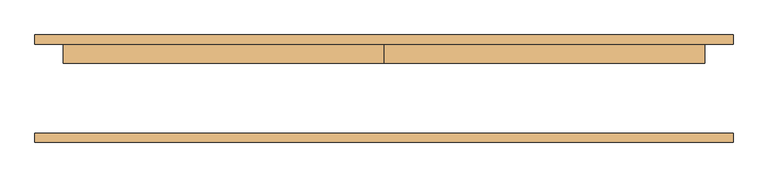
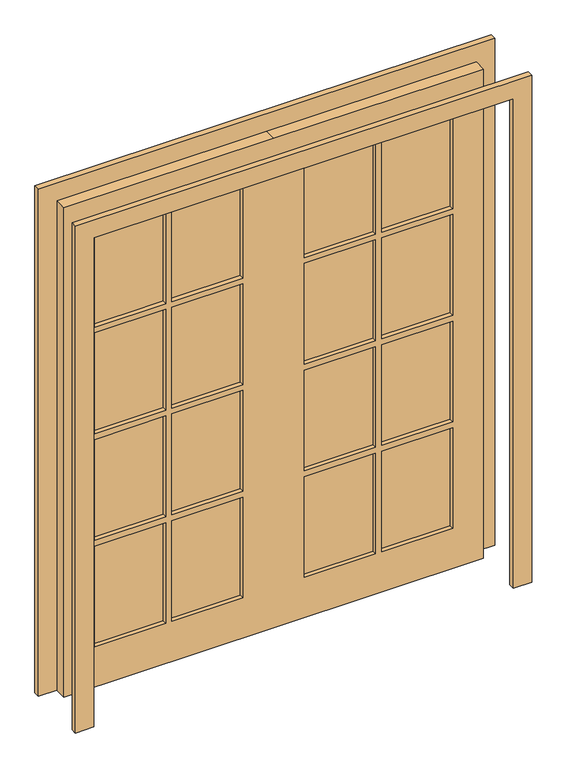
"""IFC4 building model written with IfcOpenShell, lengths in millimetres: door geometry, Двупольная-Стекло 2 : 1730 x 2134 мм."""

from ifc_helpers import new_model, si_unit, frame, origin, place, context, project, spatial, polyline, outline, extrude, source, transform, mapped, element, save


def door_87393b2f(model_context):
    return source(origin(), model_context, "Body", "SweptSolid", [
        extrude(outline(polyline([(445.0, 100.95), (738.0, 100.95), (738.0, 88.25), (445.0, 88.25), (445.0, 100.95)])), frame((0.0, 0.0, 1569.25), z_axis=(0.0, 0.0, 1.0), x_axis=(1.0, 0.0, 0.0)), (0.0, 0.0, 1.0), 439.75),
        extrude(outline(polyline([(127.0, 100.95), (420.0, 100.95), (420.0, 88.25), (127.0, 88.25), (127.0, 100.95)])), frame((0.0, 0.0, 1569.25), z_axis=(0.0, 0.0, 1.0), x_axis=(1.0, 0.0, 0.0)), (0.0, 0.0, 1.0), 439.75),
        extrude(outline(polyline([(-420.0, 100.95), (-127.0, 100.95), (-127.0, 88.25), (-420.0, 88.25), (-420.0, 100.95)])), frame((0.0, 0.0, 1569.25), z_axis=(0.0, 0.0, 1.0), x_axis=(1.0, 0.0, 0.0)), (0.0, 0.0, 1.0), 439.75),
        extrude(outline(polyline([(-738.0, 100.95), (-445.0, 100.95), (-445.0, 88.25), (-738.0, 88.25), (-738.0, 100.95)])), frame((0.0, 0.0, 1569.25), z_axis=(0.0, 0.0, 1.0), x_axis=(1.0, 0.0, 0.0)), (0.0, 0.0, 1.0), 439.75),
        extrude(outline(polyline([(-738.0, 100.95), (-445.0, 100.95), (-445.0, 88.25), (-738.0, 88.25), (-738.0, 100.95)])), frame((0.0, 0.0, 1104.5), z_axis=(0.0, 0.0, 1.0), x_axis=(1.0, 0.0, 0.0)), (0.0, 0.0, 1.0), 439.75),
        extrude(outline(polyline([(-420.0, 100.95), (-127.0, 100.95), (-127.0, 88.25), (-420.0, 88.25), (-420.0, 100.95)])), frame((0.0, 0.0, 1104.5), z_axis=(0.0, 0.0, 1.0), x_axis=(1.0, 0.0, 0.0)), (0.0, 0.0, 1.0), 439.75),
        extrude(outline(polyline([(127.0, 100.95), (420.0, 100.95), (420.0, 88.25), (127.0, 88.25), (127.0, 100.95)])), frame((0.0, 0.0, 1104.5), z_axis=(0.0, 0.0, 1.0), x_axis=(1.0, 0.0, 0.0)), (0.0, 0.0, 1.0), 439.75),
        extrude(outline(polyline([(445.0, 100.95), (738.0, 100.95), (738.0, 88.25), (445.0, 88.25), (445.0, 100.95)])), frame((0.0, 0.0, 1104.5), z_axis=(0.0, 0.0, 1.0), x_axis=(1.0, 0.0, 0.0)), (0.0, 0.0, 1.0), 439.75),
        extrude(outline(polyline([(445.0, 100.95), (738.0, 100.95), (738.0, 88.25), (445.0, 88.25), (445.0, 100.95)])), frame((0.0, 0.0, 639.75), z_axis=(0.0, 0.0, 1.0), x_axis=(1.0, 0.0, 0.0)), (0.0, 0.0, 1.0), 439.75),
        extrude(outline(polyline([(127.0, 100.95), (420.0, 100.95), (420.0, 88.25), (127.0, 88.25), (127.0, 100.95)])), frame((0.0, 0.0, 639.75), z_axis=(0.0, 0.0, 1.0), x_axis=(1.0, 0.0, 0.0)), (0.0, 0.0, 1.0), 439.75),
        extrude(outline(polyline([(-420.0, 100.95), (-127.0, 100.95), (-127.0, 88.25), (-420.0, 88.25), (-420.0, 100.95)])), frame((0.0, 0.0, 639.75), z_axis=(0.0, 0.0, 1.0), x_axis=(1.0, 0.0, 0.0)), (0.0, 0.0, 1.0), 439.75),
        extrude(outline(polyline([(-738.0, 100.95), (-445.0, 100.95), (-445.0, 88.25), (-738.0, 88.25), (-738.0, 100.95)])), frame((0.0, 0.0, 639.75), z_axis=(0.0, 0.0, 1.0), x_axis=(1.0, 0.0, 0.0)), (0.0, 0.0, 1.0), 439.75),
        extrude(outline(polyline([(445.0, 100.95), (738.0, 100.95), (738.0, 88.25), (445.0, 88.25), (445.0, 100.95)])), frame((0.0, 0.0, 175.0), z_axis=(0.0, 0.0, 1.0), x_axis=(1.0, 0.0, 0.0)), (0.0, 0.0, 1.0), 439.75),
        extrude(outline(polyline([(127.0, 100.95), (420.0, 100.95), (420.0, 88.25), (127.0, 88.25), (127.0, 100.95)])), frame((0.0, 0.0, 175.0), z_axis=(0.0, 0.0, 1.0), x_axis=(1.0, 0.0, 0.0)), (0.0, 0.0, 1.0), 439.75),
        extrude(outline(polyline([(-420.0, 100.95), (-127.0, 100.95), (-127.0, 88.25), (-420.0, 88.25), (-420.0, 100.95)])), frame((0.0, 0.0, 175.0), z_axis=(0.0, 0.0, 1.0), x_axis=(1.0, 0.0, 0.0)), (0.0, 0.0, 1.0), 439.75),
        extrude(outline(polyline([(-738.0, 100.95), (-445.0, 100.95), (-445.0, 88.25), (-738.0, 88.25), (-738.0, 100.95)])), frame((0.0, 0.0, 175.0), z_axis=(0.0, 0.0, 1.0), x_axis=(1.0, 0.0, 0.0)), (0.0, 0.0, 1.0), 439.75),
        extrude(outline(polyline([(2134.0, 0.0), (2134.0, -865.0), (0.0, -865.0), (0.0, 0.0), (0.0, 865.0), (2134.0, 865.0), (2134.0, 0.0)]), holes=[polyline([(2009.0, 445.0), (2009.0, 738.0), (1569.25, 738.0), (1569.25, 445.0), (2009.0, 445.0)]), polyline([(2009.0, 127.0), (2009.0, 420.0), (1569.25, 420.0), (1569.25, 127.0), (2009.0, 127.0)]), polyline([(1544.25, 445.0), (1544.25, 738.0), (1104.5, 738.0), (1104.5, 445.0), (1544.25, 445.0)]), polyline([(1544.25, 127.0), (1544.25, 420.0), (1104.5, 420.0), (1104.5, 127.0), (1544.25, 127.0)]), polyline([(1079.5, 445.0), (1079.5, 738.0), (639.75, 738.0), (639.75, 445.0), (1079.5, 445.0)]), polyline([(1079.5, 127.0), (1079.5, 420.0), (639.75, 420.0), (639.75, 127.0), (1079.5, 127.0)]), polyline([(614.75, 445.0), (614.75, 738.0), (175.0, 738.0), (175.0, 445.0), (614.75, 445.0)]), polyline([(614.75, 127.0), (614.75, 420.0), (175.0, 420.0), (175.0, 127.0), (614.75, 127.0)]), polyline([(2009.0, -420.0), (2009.0, -127.0), (1569.25, -127.0), (1569.25, -420.0), (2009.0, -420.0)]), polyline([(1544.25, -420.0), (1544.25, -127.0), (1104.5, -127.0), (1104.5, -420.0), (1544.25, -420.0)]), polyline([(1544.25, -445.0), (1104.5, -445.0), (1104.5, -738.0), (1544.25, -738.0), (1544.25, -445.0)]), polyline([(1079.5, -420.0), (1079.5, -127.0), (639.75, -127.0), (639.75, -420.0), (1079.5, -420.0)]), polyline([(1079.5, -445.0), (639.75, -445.0), (639.75, -738.0), (1079.5, -738.0), (1079.5, -445.0)]), polyline([(614.75, -420.0), (614.75, -127.0), (175.0, -127.0), (175.0, -420.0), (614.75, -420.0)]), polyline([(614.75, -738.0), (614.75, -445.0), (175.0, -445.0), (175.0, -738.0), (614.75, -738.0)]), polyline([(1569.25, -445.0), (1569.25, -738.0), (2009.0, -738.0), (2009.0, -445.0), (1569.25, -445.0)])]), frame((0.0, 69.0, 0.0), z_axis=(0.0, 1.0, 0.0), x_axis=(0.0, 0.0, 1.0)), (0.0, 0.0, 1.0), 51.0),
        extrude(outline(polyline([(2134.0, -865.0), (2134.0, 865.0), (0.0, 865.0), (0.0, 941.0), (2210.0, 941.0), (2210.0, -941.0), (0.0, -941.0), (0.0, -865.0), (2134.0, -865.0)])), frame((0.0, -145.0, 0.0), z_axis=(0.0, 1.0, 0.0), x_axis=(0.0, 0.0, 1.0)), (0.0, 0.0, 1.0), 25.0),
        extrude(outline(polyline([(2134.0, -865.0), (2134.0, 865.0), (0.0, 865.0), (0.0, 941.0), (2210.0, 941.0), (2210.0, -941.0), (0.0, -941.0), (0.0, -865.0), (2134.0, -865.0)])), frame((0.0, 120.0, 0.0), z_axis=(0.0, 1.0, 0.0), x_axis=(0.0, 0.0, 1.0)), (0.0, 0.0, 1.0), 25.0),
    ])


if __name__ == "__main__":
    model = new_model("IFC4")
    model_context = context("Model", 3, world=origin())
    ifc_project = project(units=[si_unit("LENGTHUNIT", "METRE", prefix="MILLI")], contexts=[model_context])
    site = spatial("IfcSite", under=ifc_project)
    building = spatial("IfcBuilding", under=site)
    placement = place(None, origin())
    door_shape = door_87393b2f(model_context)
    element("IfcDoor", 1, ObjectType="Двупольная-Стекло 2 : 1730 x 2134 мм", at=placement, inside=building, context=model_context, shape_type="MappedRepresentation", body=[
        mapped(door_shape, transform((0.0, 0.0, 0.0), x_axis=(1.0, 0.0, 0.0), y_axis=(0.0, 1.0, 0.0), z_axis=(0.0, 0.0, 1.0))),
    ])
    save(model, "model.ifc")
